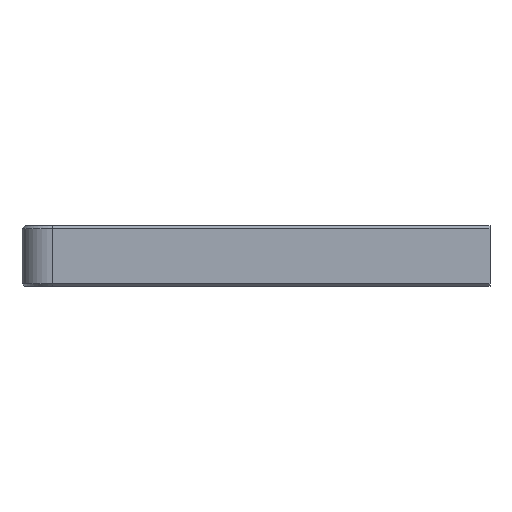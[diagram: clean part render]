
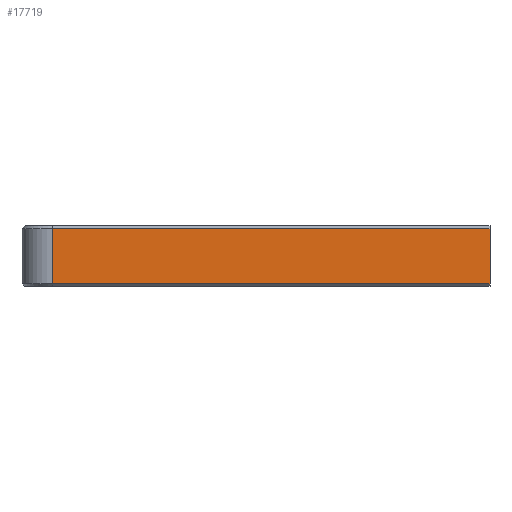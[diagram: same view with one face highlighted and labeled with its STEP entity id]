
A CAD part, front view. The second image highlights one B-rep face of the part: STEP entity #17719.
In plain terms, the highlighted planar face has unit normal (0, -1, 0).
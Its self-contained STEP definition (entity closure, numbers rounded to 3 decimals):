
#645 = PLANE('',#646);
#646 = AXIS2_PLACEMENT_3D('',#647,#648,#649);
#647 = CARTESIAN_POINT('',(293.6,0.5,19.247));
#648 = DIRECTION('',(0.,0.707,-0.707));
#649 = DIRECTION('',(-1.,0.,-0.));
#672 = PLANE('',#673);
#673 = AXIS2_PLACEMENT_3D('',#674,#675,#676);
#674 = CARTESIAN_POINT('',(151.675,-263.265,-5.));
#675 = DIRECTION('',(-1.,0.,0.));
#676 = DIRECTION('',(0.,1.,0.));
#825 = CYLINDRICAL_SURFACE('',#826,10.);
#826 = AXIS2_PLACEMENT_3D('',#827,#828,#829);
#827 = CARTESIAN_POINT('',(10.,10.,0.));
#828 = DIRECTION('',(-0.,-0.,-1.));
#829 = DIRECTION('',(1.,0.,0.));
#1059 = PLANE('',#1060);
#1060 = AXIS2_PLACEMENT_3D('',#1061,#1062,#1063);
#1061 = CARTESIAN_POINT('',(293.6,0.4,0.4));
#1062 = DIRECTION('',(0.,-0.707,-0.707));
#1063 = DIRECTION('',(-1.,-0.,0.));
#7987 = VERTEX_POINT('',#7988);
#7988 = CARTESIAN_POINT('',(151.675,0.,18.747));
#8070 = VERTEX_POINT('',#8071);
#8071 = CARTESIAN_POINT('',(151.675,0.,0.8));
#8090 = EDGE_CURVE('',#7987,#8070,#8091,.T.);
#8091 = SURFACE_CURVE('',#8092,(#8096,#8102),.PCURVE_S1.);
#8092 = LINE('',#8093,#8094);
#8093 = CARTESIAN_POINT('',(151.675,0.,-2.5));
#8094 = VECTOR('',#8095,1.);
#8095 = DIRECTION('',(0.,0.,-1.));
#8096 = PCURVE('',#672,#8097);
#8097 = DEFINITIONAL_REPRESENTATION('',(#8098),#8101);
#8098 = B_SPLINE_CURVE_WITH_KNOTS('',1,(#8099,#8100),.UNSPECIFIED.,.F.,
  .F.,(2,2),(-21.247,-3.3),.PIECEWISE_BEZIER_KNOTS.);
#8099 = CARTESIAN_POINT('',(263.265,-23.747));
#8100 = CARTESIAN_POINT('',(263.265,-5.8));
#8101 = ( GEOMETRIC_REPRESENTATION_CONTEXT(2) 
PARAMETRIC_REPRESENTATION_CONTEXT() REPRESENTATION_CONTEXT('2D SPACE',''
  ) );
#8102 = PCURVE('',#8103,#8108);
#8103 = PLANE('',#8104);
#8104 = AXIS2_PLACEMENT_3D('',#8105,#8106,#8107);
#8105 = CARTESIAN_POINT('',(10.,0.,0.));
#8106 = DIRECTION('',(0.,1.,0.));
#8107 = DIRECTION('',(1.,0.,0.));
#8108 = DEFINITIONAL_REPRESENTATION('',(#8109),#8112);
#8109 = B_SPLINE_CURVE_WITH_KNOTS('',1,(#8110,#8111),.UNSPECIFIED.,.F.,
  .F.,(2,2),(-21.247,-3.3),.PIECEWISE_BEZIER_KNOTS.);
#8110 = CARTESIAN_POINT('',(141.675,-18.747));
#8111 = CARTESIAN_POINT('',(141.675,-0.8));
#8112 = ( GEOMETRIC_REPRESENTATION_CONTEXT(2) 
PARAMETRIC_REPRESENTATION_CONTEXT() REPRESENTATION_CONTEXT('2D SPACE',''
  ) );
#8118 = EDGE_CURVE('',#7987,#8119,#8121,.T.);
#8119 = VERTEX_POINT('',#8120);
#8120 = CARTESIAN_POINT('',(10.,0.,18.747));
#8121 = SURFACE_CURVE('',#8122,(#8126,#8133),.PCURVE_S1.);
#8122 = LINE('',#8123,#8124);
#8123 = CARTESIAN_POINT('',(293.6,0.,18.747));
#8124 = VECTOR('',#8125,1.);
#8125 = DIRECTION('',(-1.,-0.,-0.));
#8126 = PCURVE('',#645,#8127);
#8127 = DEFINITIONAL_REPRESENTATION('',(#8128),#8132);
#8128 = LINE('',#8129,#8130);
#8129 = CARTESIAN_POINT('',(0.,-0.707));
#8130 = VECTOR('',#8131,1.);
#8131 = DIRECTION('',(1.,0.));
#8132 = ( GEOMETRIC_REPRESENTATION_CONTEXT(2) 
PARAMETRIC_REPRESENTATION_CONTEXT() REPRESENTATION_CONTEXT('2D SPACE',''
  ) );
#8133 = PCURVE('',#8103,#8134);
#8134 = DEFINITIONAL_REPRESENTATION('',(#8135),#8139);
#8135 = LINE('',#8136,#8137);
#8136 = CARTESIAN_POINT('',(283.6,-18.747));
#8137 = VECTOR('',#8138,1.);
#8138 = DIRECTION('',(-1.,0.));
#8139 = ( GEOMETRIC_REPRESENTATION_CONTEXT(2) 
PARAMETRIC_REPRESENTATION_CONTEXT() REPRESENTATION_CONTEXT('2D SPACE',''
  ) );
#8222 = EDGE_CURVE('',#8223,#8119,#8225,.T.);
#8223 = VERTEX_POINT('',#8224);
#8224 = CARTESIAN_POINT('',(10.,0.,0.8));
#8225 = SURFACE_CURVE('',#8226,(#8230,#8237),.PCURVE_S1.);
#8226 = LINE('',#8227,#8228);
#8227 = CARTESIAN_POINT('',(10.,0.,0.));
#8228 = VECTOR('',#8229,1.);
#8229 = DIRECTION('',(0.,0.,1.));
#8230 = PCURVE('',#825,#8231);
#8231 = DEFINITIONAL_REPRESENTATION('',(#8232),#8236);
#8232 = LINE('',#8233,#8234);
#8233 = CARTESIAN_POINT('',(-4.712,0.));
#8234 = VECTOR('',#8235,1.);
#8235 = DIRECTION('',(-0.,-1.));
#8236 = ( GEOMETRIC_REPRESENTATION_CONTEXT(2) 
PARAMETRIC_REPRESENTATION_CONTEXT() REPRESENTATION_CONTEXT('2D SPACE',''
  ) );
#8237 = PCURVE('',#8103,#8238);
#8238 = DEFINITIONAL_REPRESENTATION('',(#8239),#8243);
#8239 = LINE('',#8240,#8241);
#8240 = CARTESIAN_POINT('',(0.,0.));
#8241 = VECTOR('',#8242,1.);
#8242 = DIRECTION('',(0.,-1.));
#8243 = ( GEOMETRIC_REPRESENTATION_CONTEXT(2) 
PARAMETRIC_REPRESENTATION_CONTEXT() REPRESENTATION_CONTEXT('2D SPACE',''
  ) );
#9007 = EDGE_CURVE('',#8070,#8223,#9008,.T.);
#9008 = SURFACE_CURVE('',#9009,(#9013,#9020),.PCURVE_S1.);
#9009 = LINE('',#9010,#9011);
#9010 = CARTESIAN_POINT('',(293.6,0.,0.8));
#9011 = VECTOR('',#9012,1.);
#9012 = DIRECTION('',(-1.,-0.,-0.));
#9013 = PCURVE('',#1059,#9014);
#9014 = DEFINITIONAL_REPRESENTATION('',(#9015),#9019);
#9015 = LINE('',#9016,#9017);
#9016 = CARTESIAN_POINT('',(0.,-0.566));
#9017 = VECTOR('',#9018,1.);
#9018 = DIRECTION('',(1.,0.));
#9019 = ( GEOMETRIC_REPRESENTATION_CONTEXT(2) 
PARAMETRIC_REPRESENTATION_CONTEXT() REPRESENTATION_CONTEXT('2D SPACE',''
  ) );
#9020 = PCURVE('',#8103,#9021);
#9021 = DEFINITIONAL_REPRESENTATION('',(#9022),#9026);
#9022 = LINE('',#9023,#9024);
#9023 = CARTESIAN_POINT('',(283.6,-0.8));
#9024 = VECTOR('',#9025,1.);
#9025 = DIRECTION('',(-1.,0.));
#9026 = ( GEOMETRIC_REPRESENTATION_CONTEXT(2) 
PARAMETRIC_REPRESENTATION_CONTEXT() REPRESENTATION_CONTEXT('2D SPACE',''
  ) );
#17719 = ADVANCED_FACE('',(#17720),#8103,.F.);
#17720 = FACE_BOUND('',#17721,.F.);
#17721 = EDGE_LOOP('',(#17722,#17723,#17724,#17725));
#17722 = ORIENTED_EDGE('',*,*,#9007,.T.);
#17723 = ORIENTED_EDGE('',*,*,#8222,.T.);
#17724 = ORIENTED_EDGE('',*,*,#8118,.F.);
#17725 = ORIENTED_EDGE('',*,*,#8090,.T.);
